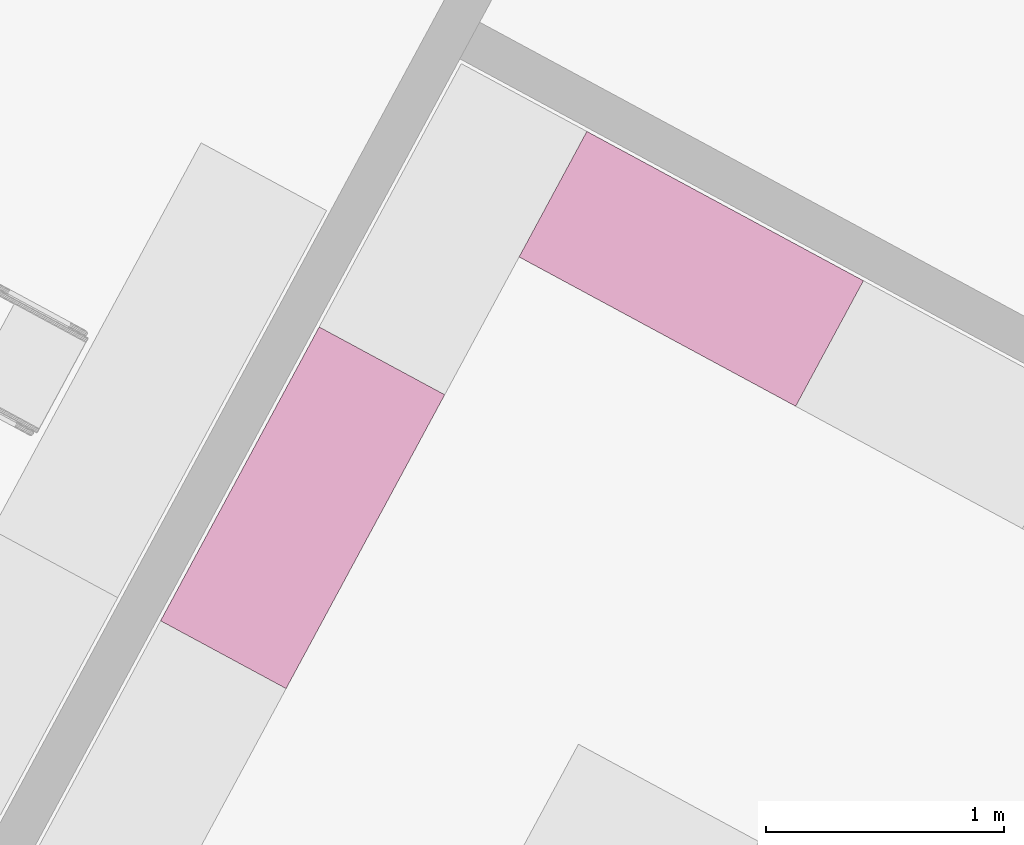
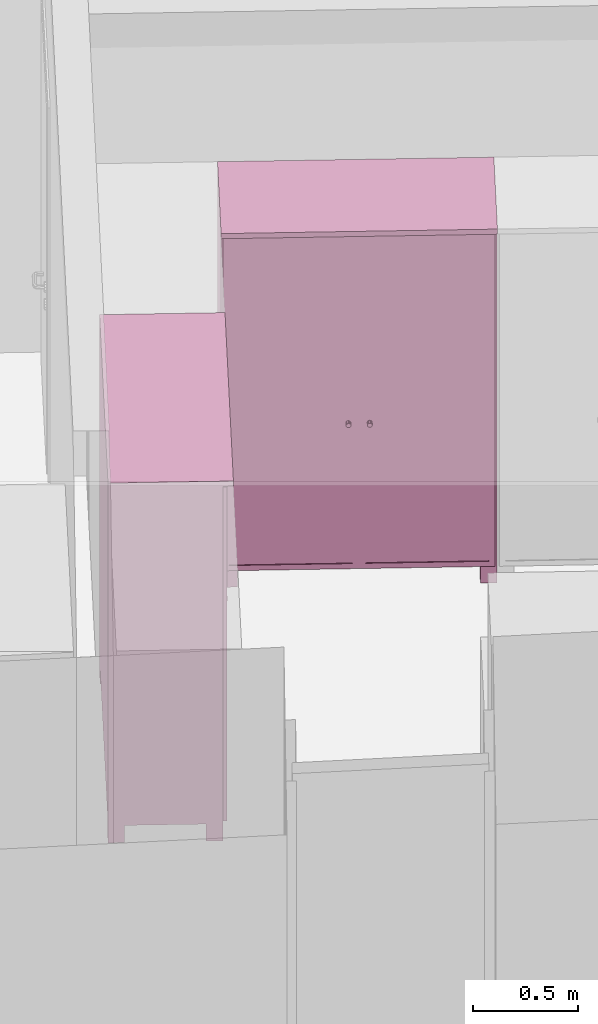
# One storey, part 31 of 41: 2 furnishings.
"""IFC2X3 building model written with IfcOpenShell, lengths in metres."""

from ifc_helpers import new_model, entity, si_unit, converted_unit, derived_unit, money_unit, direction, frame, origin_with_axes, place, context, subcontext, project, spatial, faceted_brep, type_object, element, save


model = new_model("IFC2X3")

# Units and contexts
model_context = context("Model", 3, precision=1e-05, world=origin_with_axes(), true_north=direction((0.0, 1.0)))
body_context = subcontext(model_context, "Body", "Model", "MODEL_VIEW")
ifc_project = project(units=[si_unit("LENGTHUNIT", "METRE"), si_unit("AREAUNIT", "SQUARE_METRE"), si_unit("VOLUMEUNIT", "CUBIC_METRE"), converted_unit("PLANEANGLEUNIT", "DEGREE", entity("IfcPlaneAngleMeasure", 0.0174532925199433), si_unit("PLANEANGLEUNIT", "RADIAN"), dimensions=[0, 0, 0, 0, 0, 0, 0]), money_unit("EUR"), converted_unit("TIMEUNIT", "Year", entity("IfcTimeMeasure", 31556926.0), si_unit("TIMEUNIT", "SECOND"), dimensions=[0, 0, 1, 0, 0, 0, 0]), si_unit("MASSUNIT", "GRAM", prefix="KILO"), si_unit("THERMODYNAMICTEMPERATUREUNIT", "DEGREE_CELSIUS"), si_unit("LUMINOUSINTENSITYUNIT", "LUMEN"), si_unit("ENERGYUNIT", "JOULE", prefix="MEGA"), derived_unit("THERMALCONDUCTANCEUNIT", [(si_unit("POWERUNIT", "WATT"), 1), (si_unit("LENGTHUNIT", "METRE"), -1), (si_unit("THERMODYNAMICTEMPERATUREUNIT", "KELVIN"), -1)]), derived_unit("SPECIFICHEATCAPACITYUNIT", [(si_unit("ENERGYUNIT", "JOULE"), 1), (si_unit("MASSUNIT", "GRAM", prefix="KILO"), -1), (si_unit("THERMODYNAMICTEMPERATUREUNIT", "KELVIN"), -1)]), derived_unit("MASSDENSITYUNIT", [(si_unit("MASSUNIT", "GRAM", prefix="KILO"), 1), (si_unit("VOLUMEUNIT", "CUBIC_METRE"), -1)])], contexts=[model_context])

# Site, building, storey
site_placement = place(None, frame((-3.949935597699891, 1.740105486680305, 0.0), z_axis=(0.0, 0.0, 1.0), x_axis=(0.8799804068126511, -0.475009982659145, 0.0)))
site = spatial("IfcSite", under=ifc_project, at=site_placement, Name="Gelände", CompositionType="ELEMENT")
building_placement = place(site_placement, origin_with_axes())
building = spatial("IfcBuilding", under=site, at=building_placement, Name="Gebäude", CompositionType="ELEMENT")
storey_placement = place(building_placement, frame((0.0, 0.0, 4.55), z_axis=(0.0, 0.0, 1.0), x_axis=(1.0, 0.0, 0.0)))
storey = spatial("IfcBuildingStorey", under=building, at=storey_placement, Name="Staffelgeschoss", CompositionType="ELEMENT", Elevation=4.55)

# Furnishings
furniture_type = type_object("IfcFurnitureType", Name="Kleiderschrank 22", AssemblyPlace="NOTDEFINED")
furnishing_1_placement = place(storey_placement, frame((12.22319561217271, 4.444526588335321, 0.0), z_axis=(0.0, 0.0, 1.0), x_axis=(0.0, 1.0, 0.0)))
element("IfcFurnishingElement", 1, at=furnishing_1_placement, inside=storey, type_object=furniture_type, Name="Objekt-0066", ObjectType="FURNITURE", context=body_context, shape_type="Brep", body=[
    faceted_brep([(-0.02000000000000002, 0.6000000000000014, 0.12), (-0.02000000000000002, 0.6000000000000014, 2.05), (-0.02000000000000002, 0.5800000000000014, 2.05), (-0.02000000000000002, 0.5800000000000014, 0.12), (-1.384539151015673, 0.6000000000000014, 0.12), (-1.384539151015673, 0.6000000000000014, 2.05), (-1.384539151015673, 0.5800000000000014, 2.05), (-1.384539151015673, 0.5800000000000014, 0.12)], [[[0, 1, 2, 3]], [[4, 5, 1, 0]], [[1, 5, 6, 2]], [[3, 2, 6, 7]], [[0, 3, 7, 4]], [[7, 6, 5, 4]]]),
    faceted_brep([(-1.404539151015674, 0.05000000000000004, 0.1), (-1.404539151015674, 0.6000000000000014, 0.1), (-1.384539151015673, 0.6000000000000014, 0.1), (-1.384539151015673, 0.05000000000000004, 0.1), (-1.404539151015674, 0.05000000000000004, 2.07), (-1.404539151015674, 0.6000000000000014, 2.07), (-1.384539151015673, 0.6000000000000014, 2.07), (-1.384539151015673, 0.05000000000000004, 2.07)], [[[0, 1, 2, 3]], [[0, 4, 5, 1]], [[1, 5, 6, 2]], [[2, 6, 7, 3]], [[3, 7, 4, 0]], [[7, 6, 5, 4]]]),
    faceted_brep([(-0.02, 0.05000000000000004, 0.1), (-0.02, 0.6000000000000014, 0.1), (0.0, 0.6000000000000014, 0.1), (0.0, 0.05000000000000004, 0.1), (-0.02, 0.05000000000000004, 2.07), (-0.02, 0.6000000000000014, 2.07), (0.0, 0.6000000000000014, 2.07), (0.0, 0.05000000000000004, 2.07)], [[[0, 1, 2, 3]], [[0, 4, 5, 1]], [[1, 5, 6, 2]], [[2, 6, 7, 3]], [[3, 7, 4, 0]], [[7, 6, 5, 4]]]),
    faceted_brep([(-1.384539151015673, 0.05000000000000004, 0.1), (-1.384539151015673, 0.6000000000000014, 0.1), (-0.02000000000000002, 0.6000000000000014, 0.1), (-0.02000000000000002, 0.05000000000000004, 0.1), (-1.384539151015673, 0.05000000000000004, 0.12), (-1.384539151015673, 0.6000000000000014, 0.12), (-0.02000000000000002, 0.6000000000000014, 0.12), (-0.02000000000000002, 0.05000000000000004, 0.12)], [[[0, 1, 2, 3]], [[0, 4, 5, 1]], [[1, 5, 6, 2]], [[2, 6, 7, 3]], [[3, 7, 4, 0]], [[7, 6, 5, 4]]]),
    faceted_brep([(-1.384539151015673, 0.05000000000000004, 2.05), (-1.384539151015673, 0.6000000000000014, 2.05), (-0.02000000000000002, 0.6000000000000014, 2.05), (-0.02000000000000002, 0.05000000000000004, 2.05), (-1.384539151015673, 0.05000000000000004, 2.07), (-1.384539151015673, 0.6000000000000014, 2.07), (-0.02000000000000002, 0.6000000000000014, 2.07), (-0.02000000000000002, 0.05000000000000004, 2.07)], [[[0, 1, 2, 3]], [[0, 4, 5, 1]], [[1, 5, 6, 2]], [[2, 6, 7, 3]], [[3, 7, 4, 0]], [[7, 6, 5, 4]]]),
    faceted_brep([(-1.404539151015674, 0.6000000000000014, 2.07), (-1.404539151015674, 0.0, 2.07), (-1.404539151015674, 0.0, 2.1), (-1.404539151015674, 0.6000000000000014, 2.1), (0.0, 0.6000000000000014, 2.07), (0.0, 0.0, 2.07), (0.0, 0.0, 2.1), (0.0, 0.6000000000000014, 2.1)], [[[0, 1, 2, 3]], [[0, 4, 5, 1]], [[1, 5, 6, 2]], [[3, 2, 6, 7]], [[4, 0, 3, 7]], [[5, 4, 7, 6]]]),
    faceted_brep([(-0.08000000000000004, 0.5200000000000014, 0.0), (-0.08000000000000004, 0.5200000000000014, 0.1), (-0.08000000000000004, 0.6000000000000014, 0.1), (-0.08000000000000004, 0.6000000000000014, 0.0), (0.0, 0.5200000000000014, 0.0), (0.0, 0.5200000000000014, 0.1), (0.0, 0.6000000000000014, 0.1), (0.0, 0.6000000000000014, 0.0)], [[[0, 1, 2, 3]], [[4, 5, 1, 0]], [[1, 5, 6, 2]], [[3, 2, 6, 7]], [[0, 3, 7, 4]], [[7, 6, 5, 4]]]),
    faceted_brep([(-1.404539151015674, 0.5200000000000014, 0.0), (-1.404539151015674, 0.5200000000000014, 0.1), (-1.404539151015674, 0.6000000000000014, 0.1), (-1.404539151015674, 0.6000000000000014, 0.0), (-1.324539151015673, 0.5200000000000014, 0.0), (-1.324539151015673, 0.5200000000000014, 0.1), (-1.324539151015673, 0.6000000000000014, 0.1), (-1.324539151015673, 0.6000000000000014, 0.0)], [[[0, 1, 2, 3]], [[4, 5, 1, 0]], [[1, 5, 6, 2]], [[3, 2, 6, 7]], [[0, 3, 7, 4]], [[7, 6, 5, 4]]]),
    faceted_brep([(-0.08000000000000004, 0.05000000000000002, 0.0), (-0.08000000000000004, 0.05000000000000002, 0.1), (-0.08000000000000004, 0.13, 0.1), (-0.08000000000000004, 0.13, 0.0), (0.0, 0.05000000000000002, 0.0), (0.0, 0.05000000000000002, 0.1), (0.0, 0.13, 0.1), (0.0, 0.13, 0.0)], [[[0, 1, 2, 3]], [[4, 5, 1, 0]], [[1, 5, 6, 2]], [[3, 2, 6, 7]], [[0, 3, 7, 4]], [[7, 6, 5, 4]]]),
    faceted_brep([(-1.404539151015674, 0.05000000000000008, 0.0), (-1.404539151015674, 0.05000000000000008, 0.1), (-1.404539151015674, 0.1300000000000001, 0.1), (-1.404539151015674, 0.1300000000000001, 0.0), (-1.324539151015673, 0.05000000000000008, 0.0), (-1.324539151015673, 0.05000000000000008, 0.1), (-1.324539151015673, 0.1300000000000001, 0.1), (-1.324539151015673, 0.1300000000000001, 0.0)], [[[0, 1, 2, 3]], [[4, 5, 1, 0]], [[1, 5, 6, 2]], [[3, 2, 6, 7]], [[0, 3, 7, 4]], [[7, 6, 5, 4]]]),
    faceted_brep([(-0.7017695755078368, 0.05, 0.1104999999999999), (-0.7017695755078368, 0.03, 0.1104999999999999), (-0.7017695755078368, 0.03000000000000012, 2.0595), (-0.7017695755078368, 0.05000000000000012, 2.0595), (-0.6717695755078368, 0.05, 0.1405), (-0.6717695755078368, 0.03000000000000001, 0.1405), (-0.6717695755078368, 0.03000000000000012, 2.0295), (-0.6717695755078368, 0.05000000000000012, 2.0295)], [[[0, 1, 2, 3]], [[4, 5, 1, 0]], [[1, 5, 6, 2]], [[3, 2, 6, 7]], [[0, 3, 7, 4]], [[7, 6, 5, 4]]]),
    faceted_brep([(-0.04049999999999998, 0.05, 0.1405), (-0.04049999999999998, 0.03000000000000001, 0.1405), (-0.04049999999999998, 0.03000000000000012, 2.0295), (-0.04049999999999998, 0.05000000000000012, 2.0295), (-0.01050000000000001, 0.05, 0.1104999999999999), (-0.01050000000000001, 0.03, 0.1104999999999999), (-0.01050000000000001, 0.03000000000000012, 2.0595), (-0.01050000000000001, 0.05000000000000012, 2.0595)], [[[0, 1, 2, 3]], [[4, 5, 1, 0]], [[1, 5, 6, 2]], [[3, 2, 6, 7]], [[0, 3, 7, 4]], [[7, 6, 5, 4]]]),
    faceted_brep([(-0.01050000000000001, 0.05, 0.1104999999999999), (-0.01050000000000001, 0.03, 0.1104999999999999), (-0.7017695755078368, 0.03, 0.1104999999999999), (-0.7017695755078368, 0.05, 0.1104999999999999), (-0.04049999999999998, 0.05, 0.1405), (-0.04049999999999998, 0.03000000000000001, 0.1405), (-0.6717695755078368, 0.03000000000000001, 0.1405), (-0.6717695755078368, 0.05, 0.1405)], [[[0, 1, 2, 3]], [[4, 5, 1, 0]], [[1, 5, 6, 2]], [[3, 2, 6, 7]], [[0, 3, 7, 4]], [[7, 6, 5, 4]]]),
    faceted_brep([(-0.04049999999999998, 0.05000000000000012, 2.0295), (-0.04049999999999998, 0.03000000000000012, 2.0295), (-0.6717695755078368, 0.03000000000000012, 2.0295), (-0.6717695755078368, 0.05000000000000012, 2.0295), (-0.01050000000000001, 0.05000000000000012, 2.0595), (-0.01050000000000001, 0.03000000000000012, 2.0595), (-0.7017695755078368, 0.03000000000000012, 2.0595), (-0.7017695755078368, 0.05000000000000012, 2.0595)], [[[0, 1, 2, 3]], [[4, 5, 1, 0]], [[1, 5, 6, 2]], [[3, 2, 6, 7]], [[0, 3, 7, 4]], [[7, 6, 5, 4]]]),
    faceted_brep([(-0.6717695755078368, 0.04500000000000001, 0.1405), (-0.6717695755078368, 0.035, 0.1405), (-0.6717695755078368, 0.03500000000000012, 2.0295), (-0.6717695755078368, 0.04500000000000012, 2.0295), (-0.04049999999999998, 0.04500000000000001, 0.1405), (-0.04049999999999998, 0.035, 0.1405), (-0.04049999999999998, 0.03500000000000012, 2.0295), (-0.04049999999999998, 0.04500000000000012, 2.0295)], [[[0, 1, 2, 3]], [[4, 5, 1, 0]], [[1, 5, 6, 2]], [[3, 2, 6, 7]], [[0, 3, 7, 4]], [[7, 6, 5, 4]]]),
    faceted_brep([(-0.6616618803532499, 0.035, 0.954), (-0.6632695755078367, 0.035, 0.96), (-0.66166188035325, 0.035, 0.966), (-0.6572695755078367, 0.035, 0.9703923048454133), (-0.6512695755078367, 0.035, 0.972), (-0.6452695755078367, 0.035, 0.9703923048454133), (-0.6408772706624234, 0.035, 0.966), (-0.6392695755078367, 0.035, 0.96), (-0.6408772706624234, 0.035, 0.954), (-0.6452695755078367, 0.035, 0.9496076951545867), (-0.6512695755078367, 0.035, 0.948), (-0.6572695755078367, 0.035, 0.9496076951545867), (-0.6616618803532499, 0.01, 0.954), (-0.6632695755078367, 0.01, 0.96), (-0.66166188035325, 0.01, 0.966), (-0.6572695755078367, 0.01, 0.9703923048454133), (-0.6512695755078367, 0.01, 0.972), (-0.6452695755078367, 0.01, 0.9703923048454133), (-0.6408772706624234, 0.01, 0.966), (-0.6392695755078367, 0.01, 0.96), (-0.6408772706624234, 0.01, 0.954), (-0.6452695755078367, 0.01, 0.9496076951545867), (-0.6512695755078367, 0.01, 0.948), (-0.6572695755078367, 0.01, 0.9496076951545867)], [[[0, 1, 2, 3, 4, 5, 6, 7, 8, 9, 10, 11]], [[0, 12, 13, 1]], [[1, 13, 14, 2]], [[2, 14, 15, 3]], [[3, 15, 16, 4]], [[4, 16, 17, 5]], [[5, 17, 18, 6]], [[6, 18, 19, 7]], [[7, 19, 20, 8]], [[8, 20, 21, 9]], [[9, 21, 22, 10]], [[10, 22, 23, 11]], [[11, 23, 12, 0]], [[12, 23, 22, 21, 20, 19, 18, 17, 16, 15, 14, 13]]]),
    faceted_brep([(-1.395039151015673, 0.05, 0.1104999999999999), (-1.395039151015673, 0.03, 0.1104999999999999), (-1.395039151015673, 0.03000000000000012, 2.0595), (-1.395039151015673, 0.05000000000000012, 2.0595), (-1.365039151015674, 0.05, 0.1405), (-1.365039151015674, 0.03000000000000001, 0.1405), (-1.365039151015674, 0.03000000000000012, 2.0295), (-1.365039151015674, 0.05000000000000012, 2.0295)], [[[0, 1, 2, 3]], [[4, 5, 1, 0]], [[1, 5, 6, 2]], [[3, 2, 6, 7]], [[0, 3, 7, 4]], [[7, 6, 5, 4]]]),
    faceted_brep([(-0.7337695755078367, 0.05, 0.1405), (-0.7337695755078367, 0.03000000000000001, 0.1405), (-0.7337695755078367, 0.03000000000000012, 2.0295), (-0.7337695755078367, 0.05000000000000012, 2.0295), (-0.7037695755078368, 0.05, 0.1104999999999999), (-0.7037695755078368, 0.03, 0.1104999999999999), (-0.7037695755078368, 0.03000000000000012, 2.0595), (-0.7037695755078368, 0.05000000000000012, 2.0595)], [[[0, 1, 2, 3]], [[4, 5, 1, 0]], [[1, 5, 6, 2]], [[3, 2, 6, 7]], [[0, 3, 7, 4]], [[7, 6, 5, 4]]]),
    faceted_brep([(-0.7037695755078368, 0.05, 0.1104999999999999), (-0.7037695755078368, 0.03, 0.1104999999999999), (-1.395039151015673, 0.03, 0.1104999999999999), (-1.395039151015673, 0.05, 0.1104999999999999), (-0.7337695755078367, 0.05, 0.1405), (-0.7337695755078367, 0.03000000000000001, 0.1405), (-1.365039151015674, 0.03000000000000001, 0.1405), (-1.365039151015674, 0.05, 0.1405)], [[[0, 1, 2, 3]], [[4, 5, 1, 0]], [[1, 5, 6, 2]], [[3, 2, 6, 7]], [[0, 3, 7, 4]], [[7, 6, 5, 4]]]),
    faceted_brep([(-0.7337695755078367, 0.05000000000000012, 2.0295), (-0.7337695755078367, 0.03000000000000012, 2.0295), (-1.365039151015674, 0.03000000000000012, 2.0295), (-1.365039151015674, 0.05000000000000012, 2.0295), (-0.7037695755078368, 0.05000000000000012, 2.0595), (-0.7037695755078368, 0.03000000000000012, 2.0595), (-1.395039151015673, 0.03000000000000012, 2.0595), (-1.395039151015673, 0.05000000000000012, 2.0595)], [[[0, 1, 2, 3]], [[4, 5, 1, 0]], [[1, 5, 6, 2]], [[3, 2, 6, 7]], [[0, 3, 7, 4]], [[7, 6, 5, 4]]]),
    faceted_brep([(-1.365039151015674, 0.04500000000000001, 0.1405), (-1.365039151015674, 0.04000000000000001, 0.1405), (-1.365039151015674, 0.04000000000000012, 2.0295), (-1.365039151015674, 0.04500000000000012, 2.0295), (-0.7337695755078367, 0.04500000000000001, 0.1405), (-0.7337695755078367, 0.04000000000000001, 0.1405), (-0.7337695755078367, 0.04000000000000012, 2.0295), (-0.7337695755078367, 0.04500000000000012, 2.0295)], [[[0, 1, 2, 3]], [[4, 5, 1, 0]], [[1, 5, 6, 2]], [[3, 2, 6, 7]], [[0, 3, 7, 4]], [[7, 6, 5, 4]]]),
    faceted_brep([(-1.365039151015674, 0.04000000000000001, 0.1405), (-1.365039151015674, 0.03500000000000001, 0.1405), (-1.365039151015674, 0.03500000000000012, 2.0295), (-1.365039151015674, 0.04000000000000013, 2.0295), (-0.7337695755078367, 0.04000000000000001, 0.1405), (-0.7337695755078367, 0.03500000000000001, 0.1405), (-0.7337695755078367, 0.03500000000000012, 2.0295), (-0.7337695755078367, 0.04000000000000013, 2.0295)], [[[0, 1, 2, 3]], [[4, 5, 1, 0]], [[1, 5, 6, 2]], [[3, 2, 6, 7]], [[0, 3, 7, 4]], [[7, 6, 5, 4]]]),
    faceted_brep([(-0.7428772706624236, 0.035, 0.954), (-0.7472695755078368, 0.035, 0.9496076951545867), (-0.7532695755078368, 0.035, 0.948), (-0.7592695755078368, 0.035, 0.9496076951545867), (-0.7636618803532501, 0.035, 0.954), (-0.7652695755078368, 0.035, 0.96), (-0.7636618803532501, 0.035, 0.966), (-0.7592695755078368, 0.035, 0.9703923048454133), (-0.7532695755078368, 0.035, 0.972), (-0.7472695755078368, 0.035, 0.9703923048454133), (-0.7428772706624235, 0.035, 0.966), (-0.7412695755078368, 0.035, 0.96), (-0.7428772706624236, 0.01, 0.954), (-0.7472695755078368, 0.01, 0.9496076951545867), (-0.7532695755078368, 0.01, 0.948), (-0.7592695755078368, 0.01, 0.9496076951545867), (-0.7636618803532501, 0.01, 0.954), (-0.7652695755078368, 0.01, 0.96), (-0.7636618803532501, 0.01, 0.966), (-0.7592695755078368, 0.01, 0.9703923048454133), (-0.7532695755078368, 0.01, 0.972), (-0.7472695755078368, 0.01, 0.9703923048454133), (-0.7428772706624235, 0.01, 0.966), (-0.7412695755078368, 0.01, 0.96)], [[[0, 1, 2, 3, 4, 5, 6, 7, 8, 9, 10, 11]], [[1, 0, 12, 13]], [[2, 1, 13, 14]], [[3, 2, 14, 15]], [[4, 3, 15, 16]], [[5, 4, 16, 17]], [[6, 5, 17, 18]], [[7, 6, 18, 19]], [[8, 7, 19, 20]], [[9, 8, 20, 21]], [[10, 9, 21, 22]], [[11, 10, 22, 23]], [[0, 11, 23, 12]], [[12, 23, 22, 21, 20, 19, 18, 17, 16, 15, 14, 13]]]),
])
furnishing_2_placement = place(storey_placement, frame((13.545195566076, 5.103060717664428, 0.0), z_axis=(0.0, 0.0, 1.0), x_axis=(1.0, 0.0, 0.0)))
element("IfcFurnishingElement", 2, at=furnishing_2_placement, inside=storey, type_object=furniture_type, Name="Objekt-0066", ObjectType="FURNITURE", context=body_context, shape_type="Brep", body=[
    faceted_brep([(-0.02000000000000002, 0.5999999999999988, 0.12), (-0.02000000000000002, 0.5999999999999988, 2.05), (-0.02000000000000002, 0.5799999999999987, 2.05), (-0.02000000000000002, 0.5799999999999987, 0.12), (-1.301999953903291, 0.5999999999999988, 0.12), (-1.301999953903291, 0.5999999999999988, 2.05), (-1.301999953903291, 0.5799999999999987, 2.05), (-1.301999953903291, 0.5799999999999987, 0.12)], [[[0, 1, 2, 3]], [[4, 5, 1, 0]], [[1, 5, 6, 2]], [[3, 2, 6, 7]], [[0, 3, 7, 4]], [[7, 6, 5, 4]]]),
    faceted_brep([(-1.321999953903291, 0.05000000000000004, 0.1), (-1.321999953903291, 0.5999999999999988, 0.1), (-1.301999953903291, 0.5999999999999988, 0.1), (-1.301999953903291, 0.05000000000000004, 0.1), (-1.321999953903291, 0.05000000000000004, 2.07), (-1.321999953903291, 0.5999999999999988, 2.07), (-1.301999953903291, 0.5999999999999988, 2.07), (-1.301999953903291, 0.05000000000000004, 2.07)], [[[0, 1, 2, 3]], [[0, 4, 5, 1]], [[1, 5, 6, 2]], [[2, 6, 7, 3]], [[3, 7, 4, 0]], [[7, 6, 5, 4]]]),
    faceted_brep([(-0.02, 0.05000000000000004, 0.1), (-0.02, 0.5999999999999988, 0.1), (0.0, 0.5999999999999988, 0.1), (0.0, 0.05000000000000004, 0.1), (-0.02, 0.05000000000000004, 2.07), (-0.02, 0.5999999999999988, 2.07), (0.0, 0.5999999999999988, 2.07), (0.0, 0.05000000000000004, 2.07)], [[[0, 1, 2, 3]], [[0, 4, 5, 1]], [[1, 5, 6, 2]], [[2, 6, 7, 3]], [[3, 7, 4, 0]], [[7, 6, 5, 4]]]),
    faceted_brep([(-1.301999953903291, 0.05000000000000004, 0.1), (-1.301999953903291, 0.5999999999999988, 0.1), (-0.02000000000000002, 0.5999999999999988, 0.1), (-0.02000000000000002, 0.05000000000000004, 0.1), (-1.301999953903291, 0.05000000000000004, 0.12), (-1.301999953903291, 0.5999999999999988, 0.12), (-0.02000000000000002, 0.5999999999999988, 0.12), (-0.02000000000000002, 0.05000000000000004, 0.12)], [[[0, 1, 2, 3]], [[0, 4, 5, 1]], [[1, 5, 6, 2]], [[2, 6, 7, 3]], [[3, 7, 4, 0]], [[7, 6, 5, 4]]]),
    faceted_brep([(-1.301999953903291, 0.05000000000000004, 2.05), (-1.301999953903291, 0.5999999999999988, 2.05), (-0.02000000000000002, 0.5999999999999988, 2.05), (-0.02000000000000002, 0.05000000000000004, 2.05), (-1.301999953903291, 0.05000000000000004, 2.07), (-1.301999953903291, 0.5999999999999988, 2.07), (-0.02000000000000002, 0.5999999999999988, 2.07), (-0.02000000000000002, 0.05000000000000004, 2.07)], [[[0, 1, 2, 3]], [[0, 4, 5, 1]], [[1, 5, 6, 2]], [[2, 6, 7, 3]], [[3, 7, 4, 0]], [[7, 6, 5, 4]]]),
    faceted_brep([(-1.321999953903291, 0.5999999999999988, 2.07), (-1.321999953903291, 0.0, 2.07), (-1.321999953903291, 0.0, 2.1), (-1.321999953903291, 0.5999999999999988, 2.1), (0.0, 0.5999999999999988, 2.07), (0.0, 0.0, 2.07), (0.0, 0.0, 2.1), (0.0, 0.5999999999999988, 2.1)], [[[0, 1, 2, 3]], [[0, 4, 5, 1]], [[1, 5, 6, 2]], [[3, 2, 6, 7]], [[4, 0, 3, 7]], [[5, 4, 7, 6]]]),
    faceted_brep([(-0.08000000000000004, 0.5199999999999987, 0.0), (-0.08000000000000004, 0.5199999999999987, 0.1), (-0.08000000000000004, 0.5999999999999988, 0.1), (-0.08000000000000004, 0.5999999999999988, 0.0), (0.0, 0.5199999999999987, 0.0), (0.0, 0.5199999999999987, 0.1), (0.0, 0.5999999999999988, 0.1), (0.0, 0.5999999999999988, 0.0)], [[[0, 1, 2, 3]], [[4, 5, 1, 0]], [[1, 5, 6, 2]], [[3, 2, 6, 7]], [[0, 3, 7, 4]], [[7, 6, 5, 4]]]),
    faceted_brep([(-1.321999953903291, 0.5199999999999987, 0.0), (-1.321999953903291, 0.5199999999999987, 0.1), (-1.321999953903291, 0.5999999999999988, 0.1), (-1.321999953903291, 0.5999999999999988, 0.0), (-1.241999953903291, 0.5199999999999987, 0.0), (-1.241999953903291, 0.5199999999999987, 0.1), (-1.241999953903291, 0.5999999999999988, 0.1), (-1.241999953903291, 0.5999999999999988, 0.0)], [[[0, 1, 2, 3]], [[4, 5, 1, 0]], [[1, 5, 6, 2]], [[3, 2, 6, 7]], [[0, 3, 7, 4]], [[7, 6, 5, 4]]]),
    faceted_brep([(-0.08000000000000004, 0.05000000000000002, 0.0), (-0.08000000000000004, 0.05000000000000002, 0.1), (-0.08000000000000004, 0.13, 0.1), (-0.08000000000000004, 0.13, 0.0), (0.0, 0.05000000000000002, 0.0), (0.0, 0.05000000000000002, 0.1), (0.0, 0.13, 0.1), (0.0, 0.13, 0.0)], [[[0, 1, 2, 3]], [[4, 5, 1, 0]], [[1, 5, 6, 2]], [[3, 2, 6, 7]], [[0, 3, 7, 4]], [[7, 6, 5, 4]]]),
    faceted_brep([(-1.321999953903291, 0.05000000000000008, 0.0), (-1.321999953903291, 0.05000000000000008, 0.1), (-1.321999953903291, 0.1300000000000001, 0.1), (-1.321999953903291, 0.1300000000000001, 0.0), (-1.241999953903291, 0.05000000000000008, 0.0), (-1.241999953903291, 0.05000000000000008, 0.1), (-1.241999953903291, 0.1300000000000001, 0.1), (-1.241999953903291, 0.1300000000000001, 0.0)], [[[0, 1, 2, 3]], [[4, 5, 1, 0]], [[1, 5, 6, 2]], [[3, 2, 6, 7]], [[0, 3, 7, 4]], [[7, 6, 5, 4]]]),
    faceted_brep([(-0.6604999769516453, 0.05, 0.1104999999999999), (-0.6604999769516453, 0.03, 0.1104999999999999), (-0.6604999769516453, 0.03000000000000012, 2.0595), (-0.6604999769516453, 0.05000000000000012, 2.0595), (-0.6304999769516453, 0.05, 0.1405), (-0.6304999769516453, 0.03000000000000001, 0.1405), (-0.6304999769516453, 0.03000000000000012, 2.0295), (-0.6304999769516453, 0.05000000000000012, 2.0295)], [[[0, 1, 2, 3]], [[4, 5, 1, 0]], [[1, 5, 6, 2]], [[3, 2, 6, 7]], [[0, 3, 7, 4]], [[7, 6, 5, 4]]]),
    faceted_brep([(-0.04050000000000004, 0.05, 0.1405), (-0.04050000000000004, 0.03000000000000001, 0.1405), (-0.04050000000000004, 0.03000000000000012, 2.0295), (-0.04050000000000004, 0.05000000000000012, 2.0295), (-0.01050000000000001, 0.05, 0.1104999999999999), (-0.01050000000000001, 0.03, 0.1104999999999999), (-0.01050000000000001, 0.03000000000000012, 2.0595), (-0.01050000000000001, 0.05000000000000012, 2.0595)], [[[0, 1, 2, 3]], [[4, 5, 1, 0]], [[1, 5, 6, 2]], [[3, 2, 6, 7]], [[0, 3, 7, 4]], [[7, 6, 5, 4]]]),
    faceted_brep([(-0.01050000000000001, 0.05, 0.1104999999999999), (-0.01050000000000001, 0.03, 0.1104999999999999), (-0.6604999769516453, 0.03, 0.1104999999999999), (-0.6604999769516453, 0.05, 0.1104999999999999), (-0.04050000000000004, 0.05, 0.1405), (-0.04050000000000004, 0.03000000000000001, 0.1405), (-0.6304999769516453, 0.03000000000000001, 0.1405), (-0.6304999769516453, 0.05, 0.1405)], [[[0, 1, 2, 3]], [[4, 5, 1, 0]], [[1, 5, 6, 2]], [[3, 2, 6, 7]], [[0, 3, 7, 4]], [[7, 6, 5, 4]]]),
    faceted_brep([(-0.04050000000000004, 0.05000000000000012, 2.0295), (-0.04050000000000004, 0.03000000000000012, 2.0295), (-0.6304999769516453, 0.03000000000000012, 2.0295), (-0.6304999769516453, 0.05000000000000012, 2.0295), (-0.01050000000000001, 0.05000000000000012, 2.0595), (-0.01050000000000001, 0.03000000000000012, 2.0595), (-0.6604999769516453, 0.03000000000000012, 2.0595), (-0.6604999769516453, 0.05000000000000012, 2.0595)], [[[0, 1, 2, 3]], [[4, 5, 1, 0]], [[1, 5, 6, 2]], [[3, 2, 6, 7]], [[0, 3, 7, 4]], [[7, 6, 5, 4]]]),
    faceted_brep([(-0.6304999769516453, 0.04500000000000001, 0.1405), (-0.6304999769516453, 0.035, 0.1405), (-0.6304999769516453, 0.03500000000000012, 2.0295), (-0.6304999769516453, 0.04500000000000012, 2.0295), (-0.04050000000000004, 0.04500000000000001, 0.1405), (-0.04050000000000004, 0.035, 0.1405), (-0.04050000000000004, 0.03500000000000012, 2.0295), (-0.04050000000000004, 0.04500000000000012, 2.0295)], [[[0, 1, 2, 3]], [[4, 5, 1, 0]], [[1, 5, 6, 2]], [[3, 2, 6, 7]], [[0, 3, 7, 4]], [[7, 6, 5, 4]]]),
    faceted_brep([(-0.6203922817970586, 0.035, 0.954), (-0.6219999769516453, 0.035, 0.96), (-0.6203922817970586, 0.035, 0.966), (-0.6159999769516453, 0.035, 0.9703923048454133), (-0.6099999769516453, 0.035, 0.972), (-0.6039999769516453, 0.035, 0.9703923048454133), (-0.599607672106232, 0.035, 0.966), (-0.5979999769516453, 0.035, 0.96), (-0.599607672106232, 0.035, 0.954), (-0.6039999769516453, 0.035, 0.9496076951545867), (-0.6099999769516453, 0.035, 0.948), (-0.6159999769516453, 0.035, 0.9496076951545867), (-0.6203922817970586, 0.01, 0.954), (-0.6219999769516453, 0.01, 0.96), (-0.6203922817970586, 0.01, 0.966), (-0.6159999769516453, 0.01, 0.9703923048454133), (-0.6099999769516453, 0.01, 0.972), (-0.6039999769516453, 0.01, 0.9703923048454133), (-0.599607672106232, 0.01, 0.966), (-0.5979999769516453, 0.01, 0.96), (-0.599607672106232, 0.01, 0.954), (-0.6039999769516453, 0.01, 0.9496076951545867), (-0.6099999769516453, 0.01, 0.948), (-0.6159999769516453, 0.01, 0.9496076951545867)], [[[0, 1, 2, 3, 4, 5, 6, 7, 8, 9, 10, 11]], [[0, 12, 13, 1]], [[1, 13, 14, 2]], [[2, 14, 15, 3]], [[3, 15, 16, 4]], [[4, 16, 17, 5]], [[5, 17, 18, 6]], [[6, 18, 19, 7]], [[7, 19, 20, 8]], [[8, 20, 21, 9]], [[9, 21, 22, 10]], [[10, 22, 23, 11]], [[11, 23, 12, 0]], [[12, 23, 22, 21, 20, 19, 18, 17, 16, 15, 14, 13]]]),
    faceted_brep([(-1.312499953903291, 0.05, 0.1104999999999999), (-1.312499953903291, 0.03, 0.1104999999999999), (-1.312499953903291, 0.03000000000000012, 2.0595), (-1.312499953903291, 0.05000000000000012, 2.0595), (-1.282499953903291, 0.05, 0.1405), (-1.282499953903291, 0.03000000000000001, 0.1405), (-1.282499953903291, 0.03000000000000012, 2.0295), (-1.282499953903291, 0.05000000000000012, 2.0295)], [[[0, 1, 2, 3]], [[4, 5, 1, 0]], [[1, 5, 6, 2]], [[3, 2, 6, 7]], [[0, 3, 7, 4]], [[7, 6, 5, 4]]]),
    faceted_brep([(-0.6924999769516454, 0.05, 0.1405), (-0.6924999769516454, 0.03000000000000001, 0.1405), (-0.6924999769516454, 0.03000000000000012, 2.0295), (-0.6924999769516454, 0.05000000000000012, 2.0295), (-0.6624999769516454, 0.05, 0.1104999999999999), (-0.6624999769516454, 0.03, 0.1104999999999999), (-0.6624999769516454, 0.03000000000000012, 2.0595), (-0.6624999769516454, 0.05000000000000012, 2.0595)], [[[0, 1, 2, 3]], [[4, 5, 1, 0]], [[1, 5, 6, 2]], [[3, 2, 6, 7]], [[0, 3, 7, 4]], [[7, 6, 5, 4]]]),
    faceted_brep([(-0.6624999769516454, 0.05, 0.1104999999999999), (-0.6624999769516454, 0.03, 0.1104999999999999), (-1.312499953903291, 0.03, 0.1104999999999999), (-1.312499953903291, 0.05, 0.1104999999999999), (-0.6924999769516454, 0.05, 0.1405), (-0.6924999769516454, 0.03000000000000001, 0.1405), (-1.282499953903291, 0.03000000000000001, 0.1405), (-1.282499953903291, 0.05, 0.1405)], [[[0, 1, 2, 3]], [[4, 5, 1, 0]], [[1, 5, 6, 2]], [[3, 2, 6, 7]], [[0, 3, 7, 4]], [[7, 6, 5, 4]]]),
    faceted_brep([(-0.6924999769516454, 0.05000000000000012, 2.0295), (-0.6924999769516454, 0.03000000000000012, 2.0295), (-1.282499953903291, 0.03000000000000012, 2.0295), (-1.282499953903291, 0.05000000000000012, 2.0295), (-0.6624999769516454, 0.05000000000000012, 2.0595), (-0.6624999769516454, 0.03000000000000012, 2.0595), (-1.312499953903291, 0.03000000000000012, 2.0595), (-1.312499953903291, 0.05000000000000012, 2.0595)], [[[0, 1, 2, 3]], [[4, 5, 1, 0]], [[1, 5, 6, 2]], [[3, 2, 6, 7]], [[0, 3, 7, 4]], [[7, 6, 5, 4]]]),
    faceted_brep([(-1.282499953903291, 0.04500000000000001, 0.1405), (-1.282499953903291, 0.04000000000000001, 0.1405), (-1.282499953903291, 0.04000000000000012, 2.0295), (-1.282499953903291, 0.04500000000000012, 2.0295), (-0.6924999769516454, 0.04500000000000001, 0.1405), (-0.6924999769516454, 0.04000000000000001, 0.1405), (-0.6924999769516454, 0.04000000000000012, 2.0295), (-0.6924999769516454, 0.04500000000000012, 2.0295)], [[[0, 1, 2, 3]], [[4, 5, 1, 0]], [[1, 5, 6, 2]], [[3, 2, 6, 7]], [[0, 3, 7, 4]], [[7, 6, 5, 4]]]),
    faceted_brep([(-1.282499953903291, 0.04000000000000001, 0.1405), (-1.282499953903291, 0.03500000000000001, 0.1405), (-1.282499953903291, 0.03500000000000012, 2.0295), (-1.282499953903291, 0.04000000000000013, 2.0295), (-0.6924999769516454, 0.04000000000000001, 0.1405), (-0.6924999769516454, 0.03500000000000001, 0.1405), (-0.6924999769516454, 0.03500000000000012, 2.0295), (-0.6924999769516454, 0.04000000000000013, 2.0295)], [[[0, 1, 2, 3]], [[4, 5, 1, 0]], [[1, 5, 6, 2]], [[3, 2, 6, 7]], [[0, 3, 7, 4]], [[7, 6, 5, 4]]]),
    faceted_brep([(-0.7016076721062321, 0.035, 0.954), (-0.7059999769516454, 0.035, 0.9496076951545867), (-0.7119999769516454, 0.035, 0.948), (-0.7179999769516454, 0.035, 0.9496076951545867), (-0.7223922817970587, 0.035, 0.954), (-0.7239999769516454, 0.035, 0.96), (-0.7223922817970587, 0.035, 0.966), (-0.7179999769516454, 0.035, 0.9703923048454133), (-0.7119999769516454, 0.035, 0.972), (-0.7059999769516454, 0.035, 0.9703923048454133), (-0.7016076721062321, 0.035, 0.966), (-0.6999999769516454, 0.035, 0.96), (-0.7016076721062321, 0.01, 0.954), (-0.7059999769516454, 0.01, 0.9496076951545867), (-0.7119999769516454, 0.01, 0.948), (-0.7179999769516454, 0.01, 0.9496076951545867), (-0.7223922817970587, 0.01, 0.954), (-0.7239999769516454, 0.01, 0.96), (-0.7223922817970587, 0.01, 0.966), (-0.7179999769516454, 0.01, 0.9703923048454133), (-0.7119999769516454, 0.01, 0.972), (-0.7059999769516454, 0.01, 0.9703923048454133), (-0.7016076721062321, 0.01, 0.966), (-0.6999999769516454, 0.01, 0.96)], [[[0, 1, 2, 3, 4, 5, 6, 7, 8, 9, 10, 11]], [[1, 0, 12, 13]], [[2, 1, 13, 14]], [[3, 2, 14, 15]], [[4, 3, 15, 16]], [[5, 4, 16, 17]], [[6, 5, 17, 18]], [[7, 6, 18, 19]], [[8, 7, 19, 20]], [[9, 8, 20, 21]], [[10, 9, 21, 22]], [[11, 10, 22, 23]], [[0, 11, 23, 12]], [[12, 23, 22, 21, 20, 19, 18, 17, 16, 15, 14, 13]]]),
])

save(model, "model.ifc")
